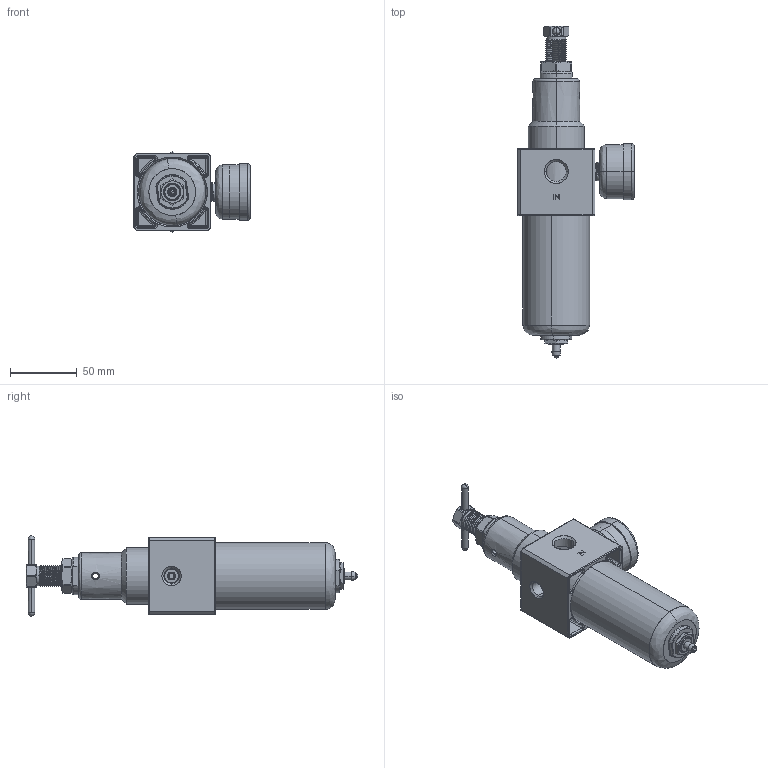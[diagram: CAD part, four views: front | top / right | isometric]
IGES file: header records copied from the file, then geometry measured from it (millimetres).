
Start section: SolidWorks IGES file using analytic representation for surfaces
Bounding box: 87.55 x 248.62 x 60 mm (x, y, z)
Surface area: 103430.5 mm2 (no closed solid volume)
Topology: 0 solids, 0 shells, 996 faces, 14359 edges, 14348 vertices
Faces by surface type: bspline 527, revolution 469
